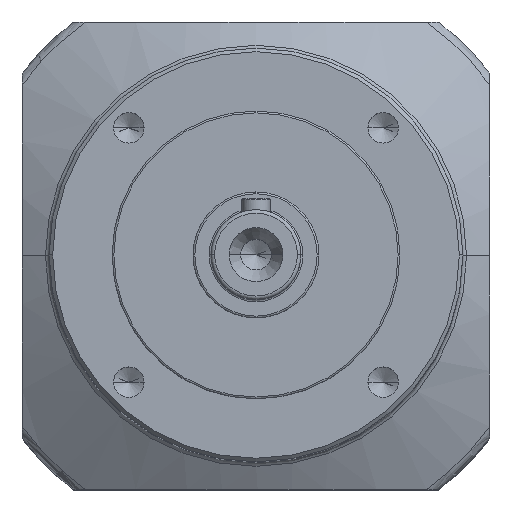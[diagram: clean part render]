
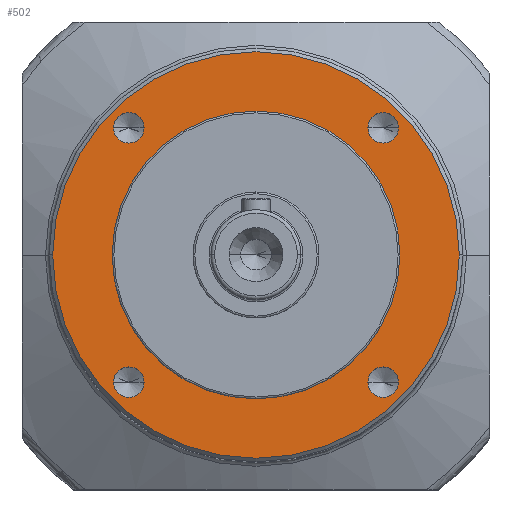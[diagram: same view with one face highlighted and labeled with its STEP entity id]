
A CAD part, top view. The second image highlights one B-rep face of the part: STEP entity #502.
In plain terms, the highlighted planar face has unit normal (0, 0, 1).
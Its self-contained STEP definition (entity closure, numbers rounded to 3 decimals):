
#67 = VERTEX_POINT ( 'NONE', #4570 ) ;
#116 = CIRCLE ( 'NONE', #4731, 4.25 ) ;
#169 = AXIS2_PLACEMENT_3D ( 'NONE', #3939, #1138, #4408 ) ;
#177 = EDGE_CURVE ( 'NONE', #1777, #2771, #3190, .T. ) ;
#178 = EDGE_CURVE ( 'NONE', #2987, #4579, #4274, .T. ) ;
#231 = AXIS2_PLACEMENT_3D ( 'NONE', #907, #910, #867 ) ;
#347 = AXIS2_PLACEMENT_3D ( 'NONE', #5004, #5066, #5049 ) ;
#399 = CIRCLE ( 'NONE', #347, 56.5 ) ;
#418 = DIRECTION ( 'NONE',  ( 0., 0., 1. ) ) ;
#438 = AXIS2_PLACEMENT_3D ( 'NONE', #3986, #418, #1010 ) ;
#502 = ADVANCED_FACE ( 'NONE', ( #3491, #986, #1131, #5820, #4560, #2241 ), #1561, .T. ) ;
#518 = CARTESIAN_POINT ( 'NONE',  ( 35.355, 35.355, 0. ) ) ;
#599 = CARTESIAN_POINT ( 'NONE',  ( 39.605, 35.355, 0. ) ) ;
#604 = DIRECTION ( 'NONE',  ( 0., 0., 1. ) ) ;
#615 = DIRECTION ( 'NONE',  ( 1., 0., 0. ) ) ;
#627 = DIRECTION ( 'NONE',  ( 0., 0., 1. ) ) ;
#661 = EDGE_CURVE ( 'NONE', #4281, #4149, #399, .T. ) ;
#663 = VERTEX_POINT ( 'NONE', #4968 ) ;
#671 = ORIENTED_EDGE ( 'NONE', *, *, #926, .F. ) ;
#693 = CIRCLE ( 'NONE', #438, 4.25 ) ;
#724 = EDGE_LOOP ( 'NONE', ( #3267, #2972 ) ) ;
#755 = CARTESIAN_POINT ( 'NONE',  ( 39.605, -35.355, 0. ) ) ;
#790 = ORIENTED_EDGE ( 'NONE', *, *, #5119, .F. ) ;
#793 = DIRECTION ( 'NONE',  ( 0., 0., 1. ) ) ;
#856 = EDGE_CURVE ( 'NONE', #4578, #4743, #116, .T. ) ;
#858 = CARTESIAN_POINT ( 'NONE',  ( 31.105, -35.355, 0. ) ) ;
#867 = DIRECTION ( 'NONE',  ( 1., 0., 0. ) ) ;
#907 = CARTESIAN_POINT ( 'NONE',  ( -35.355, -35.355, 0. ) ) ;
#910 = DIRECTION ( 'NONE',  ( 0., 0., 1. ) ) ;
#926 = EDGE_CURVE ( 'NONE', #663, #2189, #3704, .T. ) ;
#928 = CARTESIAN_POINT ( 'NONE',  ( -35.355, -35.355, 0. ) ) ;
#938 = CARTESIAN_POINT ( 'NONE',  ( 56.5, 0., 0. ) ) ;
#986 = FACE_BOUND ( 'NONE', #3010, .T. ) ;
#1010 = DIRECTION ( 'NONE',  ( 1., 0., 0. ) ) ;
#1041 = EDGE_CURVE ( 'NONE', #4579, #2987, #3626, .T. ) ;
#1075 = DIRECTION ( 'NONE',  ( 0., 0., 1. ) ) ;
#1131 = FACE_BOUND ( 'NONE', #4427, .T. ) ;
#1138 = DIRECTION ( 'NONE',  ( 0., 0., 1. ) ) ;
#1157 = EDGE_CURVE ( 'NONE', #2771, #1777, #693, .T. ) ;
#1372 = DIRECTION ( 'NONE',  ( 0., 0., 1. ) ) ;
#1395 = ORIENTED_EDGE ( 'NONE', *, *, #1041, .F. ) ;
#1475 = DIRECTION ( 'NONE',  ( 1., 0., 0. ) ) ;
#1495 = AXIS2_PLACEMENT_3D ( 'NONE', #3881, #1075, #4340 ) ;
#1515 = CARTESIAN_POINT ( 'NONE',  ( 31.105, 35.355, 0. ) ) ;
#1535 = DIRECTION ( 'NONE',  ( 1., 0., 0. ) ) ;
#1543 = ORIENTED_EDGE ( 'NONE', *, *, #2667, .F. ) ;
#1552 = DIRECTION ( 'NONE',  ( 0., 0., 1. ) ) ;
#1561 = PLANE ( 'NONE',  #2976 ) ;
#1731 = ORIENTED_EDGE ( 'NONE', *, *, #856, .F. ) ;
#1740 = ORIENTED_EDGE ( 'NONE', *, *, #177, .F. ) ;
#1748 = AXIS2_PLACEMENT_3D ( 'NONE', #4701, #1915, #5160 ) ;
#1777 = VERTEX_POINT ( 'NONE', #755 ) ;
#1805 = CARTESIAN_POINT ( 'NONE',  ( 0., 0., 0. ) ) ;
#1915 = DIRECTION ( 'NONE',  ( 0., 0., 1. ) ) ;
#1998 = EDGE_CURVE ( 'NONE', #2189, #663, #3476, .T. ) ;
#2051 = EDGE_LOOP ( 'NONE', ( #1740, #4536 ) ) ;
#2189 = VERTEX_POINT ( 'NONE', #2240 ) ;
#2235 = CARTESIAN_POINT ( 'NONE',  ( 40., 0., 0. ) ) ;
#2240 = CARTESIAN_POINT ( 'NONE',  ( -39.605, -35.355, 0. ) ) ;
#2241 = FACE_BOUND ( 'NONE', #3801, .T. ) ;
#2293 = AXIS2_PLACEMENT_3D ( 'NONE', #928, #627, #1475 ) ;
#2409 = ORIENTED_EDGE ( 'NONE', *, *, #3752, .F. ) ;
#2554 = EDGE_LOOP ( 'NONE', ( #1395, #3459 ) ) ;
#2590 = CIRCLE ( 'NONE', #1495, 40. ) ;
#2659 = AXIS2_PLACEMENT_3D ( 'NONE', #3598, #793, #4046 ) ;
#2667 = EDGE_CURVE ( 'NONE', #4743, #4578, #4980, .T. ) ;
#2771 = VERTEX_POINT ( 'NONE', #858 ) ;
#2972 = ORIENTED_EDGE ( 'NONE', *, *, #661, .T. ) ;
#2976 = AXIS2_PLACEMENT_3D ( 'NONE', #1805, #1552, #1535 ) ;
#2987 = VERTEX_POINT ( 'NONE', #1515 ) ;
#3010 = EDGE_LOOP ( 'NONE', ( #671, #3440 ) ) ;
#3190 = CIRCLE ( 'NONE', #5723, 4.25 ) ;
#3267 = ORIENTED_EDGE ( 'NONE', *, *, #4679, .T. ) ;
#3410 = CARTESIAN_POINT ( 'NONE',  ( -39.605, 35.355, 0. ) ) ;
#3440 = ORIENTED_EDGE ( 'NONE', *, *, #1998, .F. ) ;
#3459 = ORIENTED_EDGE ( 'NONE', *, *, #178, .F. ) ;
#3476 = CIRCLE ( 'NONE', #2293, 4.25 ) ;
#3491 = FACE_BOUND ( 'NONE', #2051, .T. ) ;
#3598 = CARTESIAN_POINT ( 'NONE',  ( -35.355, 35.355, 0. ) ) ;
#3607 = DIRECTION ( 'NONE',  ( 0., 0., 1. ) ) ;
#3625 = DIRECTION ( 'NONE',  ( 1., 0., 0. ) ) ;
#3626 = CIRCLE ( 'NONE', #3991, 4.25 ) ;
#3641 = CARTESIAN_POINT ( 'NONE',  ( 35.355, 35.355, 0. ) ) ;
#3670 = DIRECTION ( 'NONE',  ( 1., 0., 0. ) ) ;
#3691 = DIRECTION ( 'NONE',  ( 0., 0., 1. ) ) ;
#3704 = CIRCLE ( 'NONE', #231, 4.25 ) ;
#3708 = CARTESIAN_POINT ( 'NONE',  ( 35.355, -35.355, 0. ) ) ;
#3752 = EDGE_CURVE ( 'NONE', #67, #4141, #5445, .T. ) ;
#3801 = EDGE_LOOP ( 'NONE', ( #2409, #790 ) ) ;
#3881 = CARTESIAN_POINT ( 'NONE',  ( 0., 0., 0. ) ) ;
#3939 = CARTESIAN_POINT ( 'NONE',  ( 0., 0., 0. ) ) ;
#3986 = CARTESIAN_POINT ( 'NONE',  ( 35.355, -35.355, 0. ) ) ;
#3991 = AXIS2_PLACEMENT_3D ( 'NONE', #518, #604, #615 ) ;
#4046 = DIRECTION ( 'NONE',  ( 1., 0., 0. ) ) ;
#4068 = CARTESIAN_POINT ( 'NONE',  ( -56.5, 0., 0. ) ) ;
#4141 = VERTEX_POINT ( 'NONE', #2235 ) ;
#4149 = VERTEX_POINT ( 'NONE', #4068 ) ;
#4274 = CIRCLE ( 'NONE', #6029, 4.25 ) ;
#4281 = VERTEX_POINT ( 'NONE', #938 ) ;
#4340 = DIRECTION ( 'NONE',  ( 1., 0., 0. ) ) ;
#4408 = DIRECTION ( 'NONE',  ( 1., 0., 0. ) ) ;
#4427 = EDGE_LOOP ( 'NONE', ( #1543, #1731 ) ) ;
#4536 = ORIENTED_EDGE ( 'NONE', *, *, #1157, .F. ) ;
#4560 = FACE_OUTER_BOUND ( 'NONE', #724, .T. ) ;
#4570 = CARTESIAN_POINT ( 'NONE',  ( -40., 0., 0. ) ) ;
#4578 = VERTEX_POINT ( 'NONE', #3410 ) ;
#4579 = VERTEX_POINT ( 'NONE', #599 ) ;
#4679 = EDGE_CURVE ( 'NONE', #4149, #4281, #5801, .T. ) ;
#4701 = CARTESIAN_POINT ( 'NONE',  ( 0., 0., 0. ) ) ;
#4731 = AXIS2_PLACEMENT_3D ( 'NONE', #6063, #1372, #6078 ) ;
#4743 = VERTEX_POINT ( 'NONE', #5386 ) ;
#4968 = CARTESIAN_POINT ( 'NONE',  ( -31.105, -35.355, 0. ) ) ;
#4980 = CIRCLE ( 'NONE', #2659, 4.25 ) ;
#5004 = CARTESIAN_POINT ( 'NONE',  ( 0., 0., 0. ) ) ;
#5049 = DIRECTION ( 'NONE',  ( 1., 0., 0. ) ) ;
#5066 = DIRECTION ( 'NONE',  ( 0., 0., 1. ) ) ;
#5119 = EDGE_CURVE ( 'NONE', #4141, #67, #2590, .T. ) ;
#5160 = DIRECTION ( 'NONE',  ( 1., 0., 0. ) ) ;
#5386 = CARTESIAN_POINT ( 'NONE',  ( -31.105, 35.355, 0. ) ) ;
#5445 = CIRCLE ( 'NONE', #1748, 40. ) ;
#5723 = AXIS2_PLACEMENT_3D ( 'NONE', #3708, #3691, #3670 ) ;
#5801 = CIRCLE ( 'NONE', #169, 56.5 ) ;
#5820 = FACE_BOUND ( 'NONE', #2554, .T. ) ;
#6029 = AXIS2_PLACEMENT_3D ( 'NONE', #3641, #3607, #3625 ) ;
#6063 = CARTESIAN_POINT ( 'NONE',  ( -35.355, 35.355, 0. ) ) ;
#6078 = DIRECTION ( 'NONE',  ( 1., 0., 0. ) ) ;
